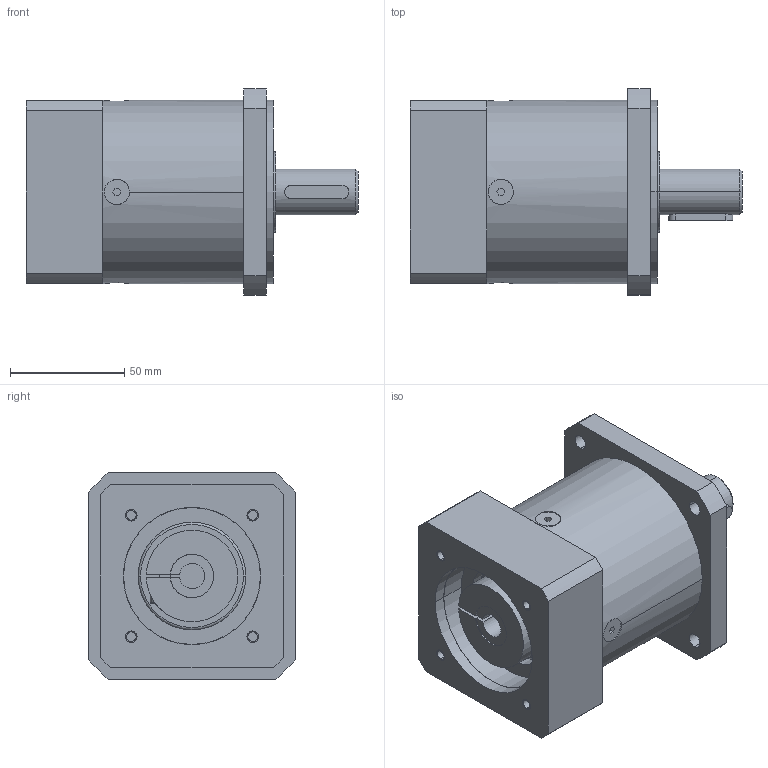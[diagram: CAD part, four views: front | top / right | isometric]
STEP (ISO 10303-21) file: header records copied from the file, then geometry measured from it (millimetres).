
FILE_DESCRIPTION((''),'2;1');
FILE_NAME('MB_PLE_MASTER','2020-02-13T',('agw'),(''),'CREO PARAMETRIC BY PTC INC, 2015290','CREO PARAMETRIC BY PTC INC, 2015290','');
FILE_SCHEMA(('AUTOMOTIVE_DESIGN { 1 0 10303 214 1 1 1 1 }'));
Length unit declared in the file: millimetre
Products named in the file (1): MB_PLE_MASTER
Bounding box: 145 x 90 x 90 mm (x, y, z)
Volume: 588882.2 mm3; surface area: 65523.5 mm2
Topology: 1 solids, 6 shells, 175 faces, 415 edges, 269 vertices
Faces by surface type: plane 85, cylinder 78, cone 6, torus 6
Entity records: 6143 total; most frequent: CARTESIAN_POINT 1050, DIRECTION 917, ORIENTED_EDGE 806, EDGE_CURVE 413, AXIS2_PLACEMENT_3D 339, VERTEX_POINT 269, VECTOR 239, LINE 239
